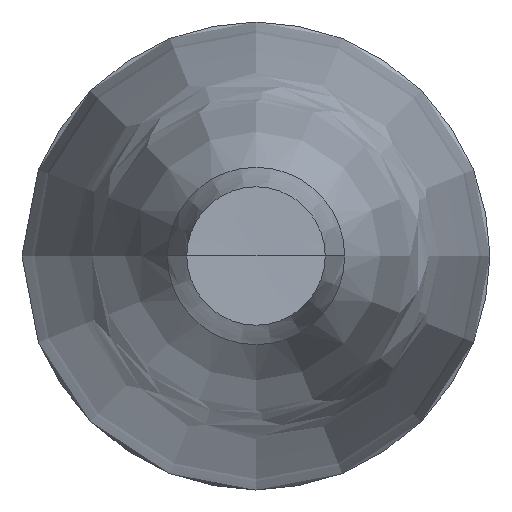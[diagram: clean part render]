
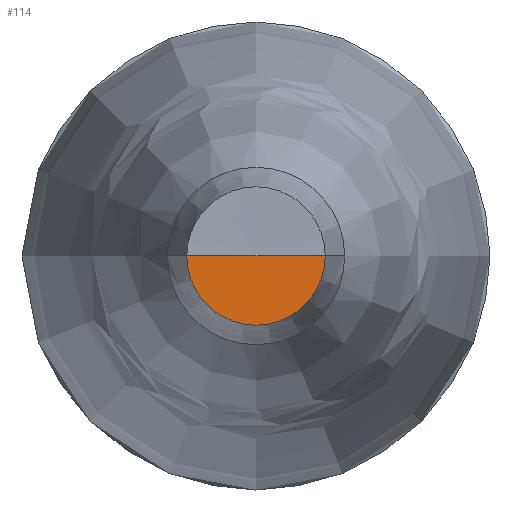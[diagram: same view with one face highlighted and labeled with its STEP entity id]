
A CAD part, left-side view. The second image highlights one B-rep face of the part: STEP entity #114.
In plain terms, the highlighted conical face has half-angle 89.231 degrees and reference radius 7.45 mm.
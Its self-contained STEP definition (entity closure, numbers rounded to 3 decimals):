
#49=CARTESIAN_POINT('',(30.0,14.9,0.0));
#50=VERTEX_POINT('',#49);
#59=CARTESIAN_POINT('',(30.0,-14.9,0.));
#60=VERTEX_POINT('',#59);
#86=CARTESIAN_POINT('',(30.1,0.0,0.0));
#87=DIRECTION('',(-1.0,0.0,0.0));
#88=DIRECTION('',(0.0,1.0,0.0));
#89=AXIS2_PLACEMENT_3D('',#86,#87,#88);
#90=CONICAL_SURFACE('',#89,7.45,89.231);
#91=CARTESIAN_POINT('',(30.2,0.0,0.0));
#92=VERTEX_POINT('',#91);
#93=CARTESIAN_POINT('',(30.2,0.0,0.0));
#94=DIRECTION('',(-0.013,-1.,0.));
#95=VECTOR('',#94,14.901);
#96=LINE('',#93,#95);
#97=EDGE_CURVE('',#92,#60,#96,.T.);
#98=ORIENTED_EDGE('',*,*,#97,.F.);
#99=CARTESIAN_POINT('',(30.0,14.9,0.0));
#100=DIRECTION('',(0.013,-1.,0.0));
#101=VECTOR('',#100,14.901);
#102=LINE('',#99,#101);
#103=EDGE_CURVE('',#50,#92,#102,.T.);
#104=ORIENTED_EDGE('',*,*,#103,.F.);
#105=CARTESIAN_POINT('',(30.0,0.0,0.0));
#106=DIRECTION('',(1.0,0.0,0.0));
#107=DIRECTION('',(0.0,1.0,0.0));
#108=AXIS2_PLACEMENT_3D('',#105,#106,#107);
#109=CIRCLE('',#108,14.9);
#110=EDGE_CURVE('',#60,#50,#109,.T.);
#111=ORIENTED_EDGE('',*,*,#110,.F.);
#112=EDGE_LOOP('',(#98,#104,#111));
#113=FACE_OUTER_BOUND('',#112,.T.);
#114=ADVANCED_FACE('',(#113),#90,.F.);
